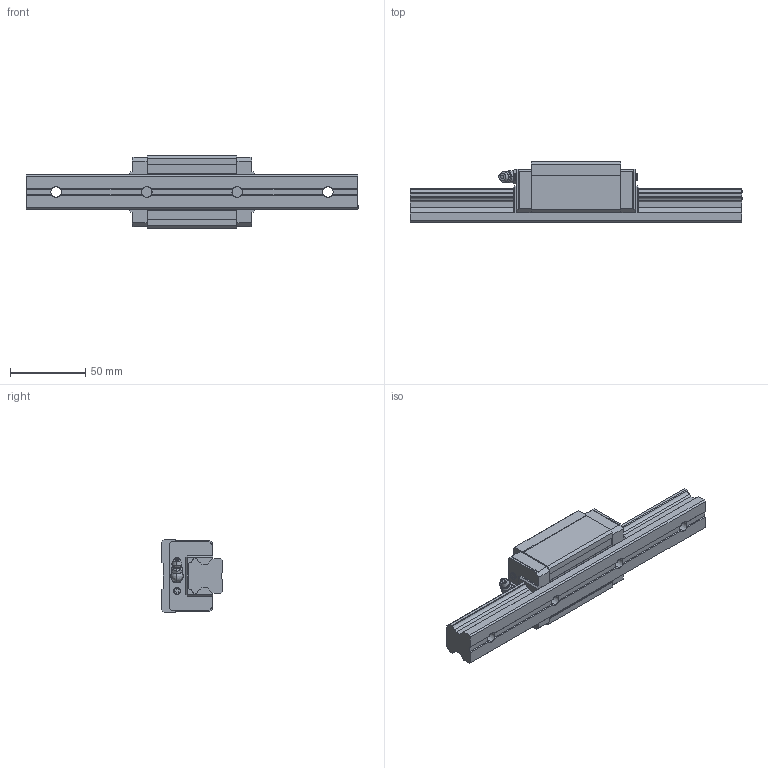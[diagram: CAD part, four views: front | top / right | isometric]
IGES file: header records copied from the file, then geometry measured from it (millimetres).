
Start section: SolidWorks IGES file using analytic representation for surfaces
Global section: file name: D:\Qsync\EOS Design B.V\Projecten\LM Systems\Models HSV\FINISHED\HSV25RSS.IGS; native system: SolidWorks 2016; preprocessor: SolidWorks 2016; author: EOS; date: 160314.144515; units: millimetre
Bounding box: 220 x 40 x 48 mm (x, y, z)
Surface area: 43125.8 mm2 (no closed solid volume)
Topology: 0 solids, 0 shells, 303 faces, 2956 edges, 2940 vertices
Faces by surface type: bspline 217, revolution 86
